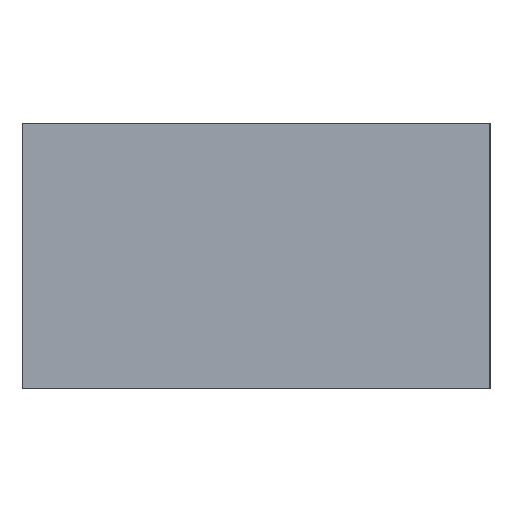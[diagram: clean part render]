
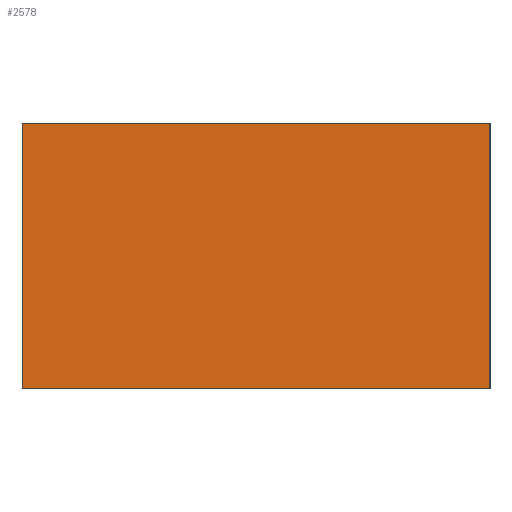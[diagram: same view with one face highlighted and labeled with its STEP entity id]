
A CAD part, left-side view. The second image highlights one B-rep face of the part: STEP entity #2578.
In plain terms, the highlighted planar face has unit normal (-1, 0, 0).
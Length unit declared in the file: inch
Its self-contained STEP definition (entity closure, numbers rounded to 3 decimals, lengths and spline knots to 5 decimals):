
#2522=CARTESIAN_POINT('',(-0.88581,-0.88585,1.0));
#2523=VERTEX_POINT('',#2522);
#2530=CARTESIAN_POINT('',(-0.88581,-0.88585,0.0));
#2531=VERTEX_POINT('',#2530);
#2532=CARTESIAN_POINT('',(-0.88581,-0.88585,0.0));
#2533=DIRECTION('',(0.0,0.0,1.0));
#2534=VECTOR('',#2533,1.0);
#2535=LINE('',#2532,#2534);
#2536=EDGE_CURVE('',#2531,#2523,#2535,.T.);
#2548=CARTESIAN_POINT('',(-0.88581,-0.88585,0.0));
#2549=DIRECTION('',(-1.,0.,0.0));
#2550=DIRECTION('',(0.0,0.0,1.0));
#2551=AXIS2_PLACEMENT_3D('',#2548,#2549,#2550);
#2552=PLANE('',#2551);
#2553=CARTESIAN_POINT('',(-0.88581,0.8858,1.0));
#2554=VERTEX_POINT('',#2553);
#2555=CARTESIAN_POINT('',(-0.88581,-0.88585,1.0));
#2556=DIRECTION('',(0.,1.,0.0));
#2557=VECTOR('',#2556,1.77165);
#2558=LINE('',#2555,#2557);
#2559=EDGE_CURVE('',#2523,#2554,#2558,.T.);
#2560=ORIENTED_EDGE('',*,*,#2559,.T.);
#2561=CARTESIAN_POINT('',(-0.88581,0.8858,0.0));
#2562=VERTEX_POINT('',#2561);
#2563=CARTESIAN_POINT('',(-0.88581,0.8858,0.0));
#2564=DIRECTION('',(0.0,0.0,1.0));
#2565=VECTOR('',#2564,1.0);
#2566=LINE('',#2563,#2565);
#2567=EDGE_CURVE('',#2562,#2554,#2566,.T.);
#2568=ORIENTED_EDGE('',*,*,#2567,.F.);
#2569=CARTESIAN_POINT('',(-0.88581,0.8858,0.0));
#2570=DIRECTION('',(0.,-1.,0.0));
#2571=VECTOR('',#2570,1.77165);
#2572=LINE('',#2569,#2571);
#2573=EDGE_CURVE('',#2562,#2531,#2572,.T.);
#2574=ORIENTED_EDGE('',*,*,#2573,.T.);
#2575=ORIENTED_EDGE('',*,*,#2536,.T.);
#2576=EDGE_LOOP('',(#2560,#2568,#2574,#2575));
#2577=FACE_OUTER_BOUND('',#2576,.T.);
#2578=ADVANCED_FACE('',(#2577),#2552,.T.);
